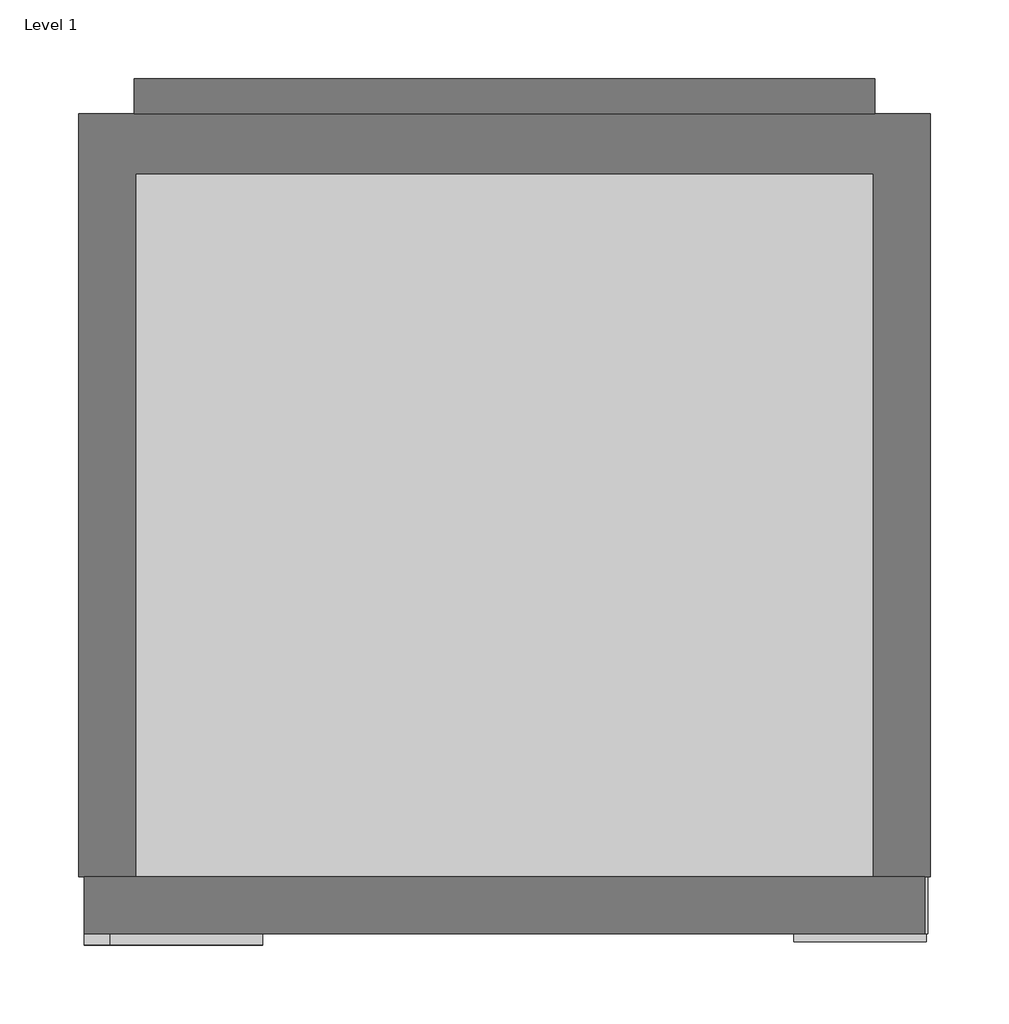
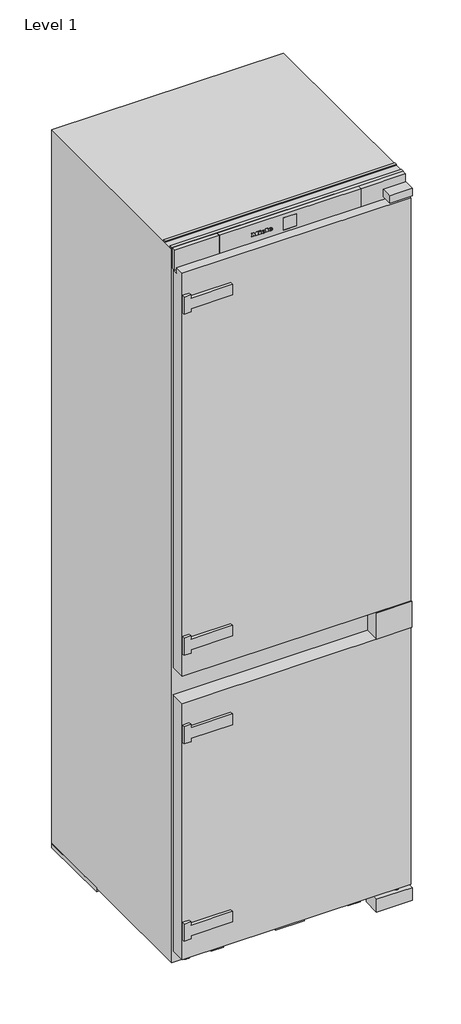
# One storey: 1 proxy.
"""IFC4 building model written with IfcOpenShell, lengths in millimetres."""

from ifc_helpers import new_model, si_unit, origin, place, context, project, spatial, transform, mapped, element, save
from components import specialty_equipment_90f1e37e

model = new_model("IFC4")

# Units and contexts
model_context = context("Model", 3, world=origin())
ifc_project = project(units=[si_unit("LENGTHUNIT", "METRE", prefix="MILLI")], contexts=[model_context])

# Site, building, storey
site = spatial("IfcSite", under=ifc_project)
building = spatial("IfcBuilding", under=site)
storey = spatial("IfcBuildingStorey", under=building, Name="Level 1", Elevation=0.0)

# Proxy
placement = place(None, origin())
specialty_equipment_shape = specialty_equipment_90f1e37e(model_context)
element("IfcBuildingElementProxy", 1, Name="11642000_EU1_KFN7733F : 38773300_EU1_11642000_KFN7733F", ObjectType="11642000_EU1_KFN7733F : 38773300_EU1_11642000_KFN7733F", at=placement, inside=storey, context=model_context, shape_type="MappedRepresentation", body=[
    mapped(specialty_equipment_shape, transform((0.0, 0.0, 0.0), x_axis=(1.0, 0.0, 0.0), y_axis=(0.0, 1.0, 0.0), z_axis=(0.0, 0.0, 1.0))),
])

save(model, "model.ifc")
